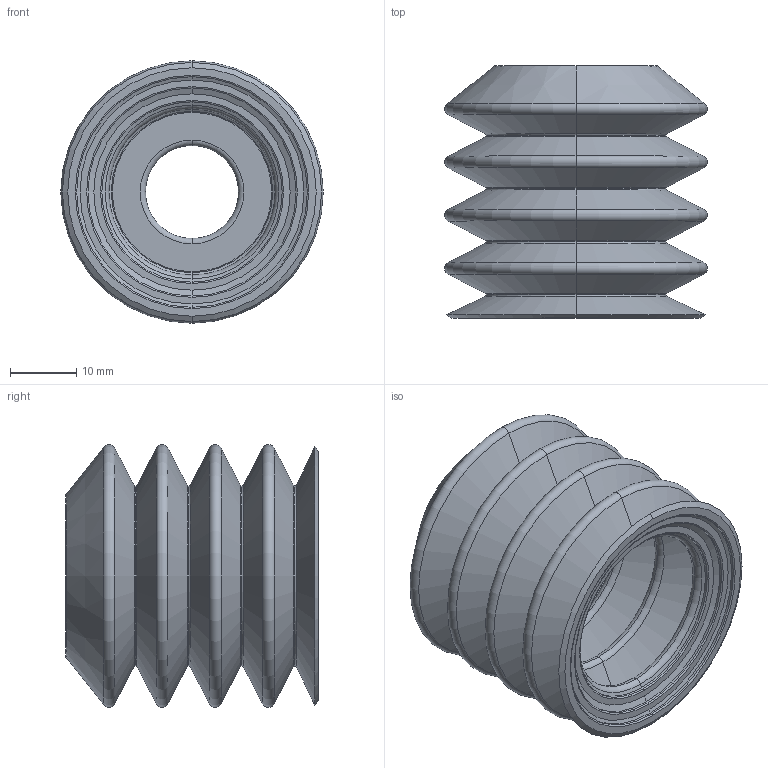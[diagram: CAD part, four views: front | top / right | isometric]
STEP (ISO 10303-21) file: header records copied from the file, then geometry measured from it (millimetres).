
FILE_DESCRIPTION (( 'STEP AP203' ), '1' );
FILE_NAME ('82_40--A.STEP', '2017-08-23T14:32:23', ( '' ), ( '' ), 'SwSTEP 2.0', 'SolidWorks 2016', '' );
FILE_SCHEMA (( 'CONFIG_CONTROL_DESIGN' ));
Length unit declared in the file: millimetre
Products named in the file (1): 82_40--A
Bounding box: 39.5 x 38 x 39.5 mm (x, y, z)
Volume: 7207.3 mm3; surface area: 14964.8 mm2
Topology: 1 solids, 1 shells, 115 faces, 230 edges, 120 vertices
Faces by surface type: torus 60, cone 42, cylinder 8, plane 5
Entity records: 3045 total; most frequent: DIRECTION 642, CARTESIAN_POINT 466, ORIENTED_EDGE 460, AXIS2_PLACEMENT_3D 296, EDGE_CURVE 230, CIRCLE 180, VERTEX_POINT 120, EDGE_LOOP 120
